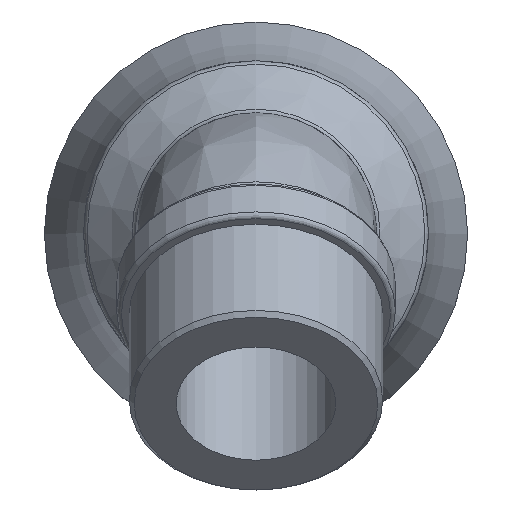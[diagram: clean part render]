
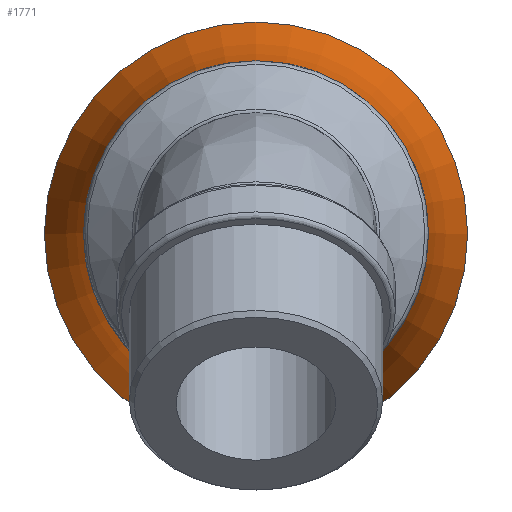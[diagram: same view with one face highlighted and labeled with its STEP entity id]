
A CAD part, top view. The second image highlights one B-rep face of the part: STEP entity #1771.
In plain terms, the highlighted toroidal (fillet/blend) face has major radius 131.481 mm and minor radius 103.912 mm.
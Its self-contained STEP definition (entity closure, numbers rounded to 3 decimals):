
#49=FACE_BOUND('',#495,.T.);
#78=TOROIDAL_SURFACE('',#1995,131.481,103.912);
#358=FACE_OUTER_BOUND('',#494,.T.);
#494=EDGE_LOOP('',(#1482));
#495=EDGE_LOOP('',(#1483));
#601=CIRCLE('',#1918,28.529);
#647=CIRCLE('',#1996,35.);
#733=VERTEX_POINT('',#3355);
#796=VERTEX_POINT('',#5146);
#927=EDGE_CURVE('',#733,#733,#601,.T.);
#1025=EDGE_CURVE('',#796,#796,#647,.T.);
#1482=ORIENTED_EDGE('',*,*,#927,.T.);
#1483=ORIENTED_EDGE('',*,*,#1025,.F.);
#1771=ADVANCED_FACE('',(#358,#49),#78,.F.);
#1918=AXIS2_PLACEMENT_3D('',#3356,#2295,#2296);
#1995=AXIS2_PLACEMENT_3D('',#5145,#2464,#2465);
#1996=AXIS2_PLACEMENT_3D('',#5147,#2466,#2467);
#2295=DIRECTION('center_axis',(0.,0.,-1.));
#2296=DIRECTION('ref_axis',(1.,0.,0.));
#2464=DIRECTION('center_axis',(0.,0.,-1.));
#2465=DIRECTION('ref_axis',(-1.,0.,0.));
#2466=DIRECTION('center_axis',(0.,0.,-1.));
#2467=DIRECTION('ref_axis',(1.,0.,0.));
#3355=CARTESIAN_POINT('',(0.,56.813,-68.284));
#3356=CARTESIAN_POINT('Origin',(0.,28.284,-68.284));
#5145=CARTESIAN_POINT('Origin',(0.,28.284,-54.196));
#5146=CARTESIAN_POINT('',(0.,63.284,-92.784));
#5147=CARTESIAN_POINT('Origin',(0.,28.284,-92.784));
